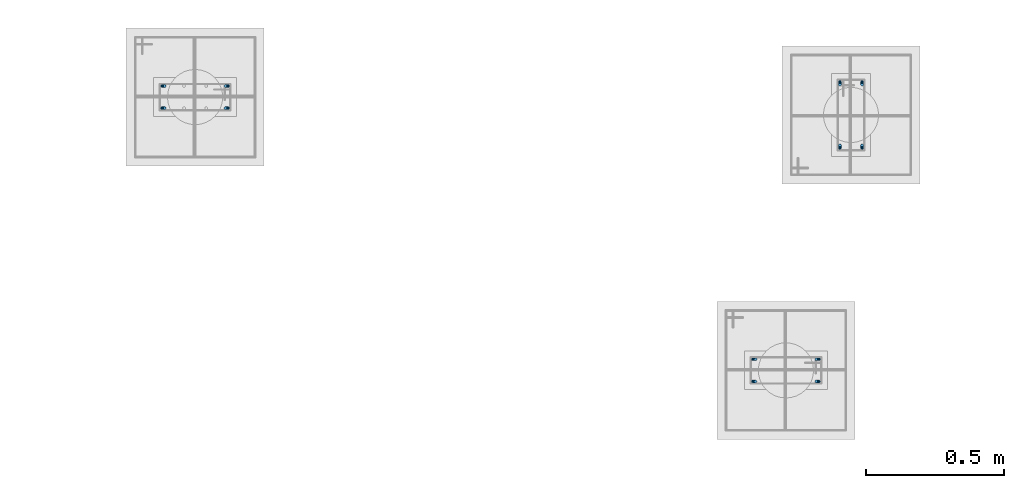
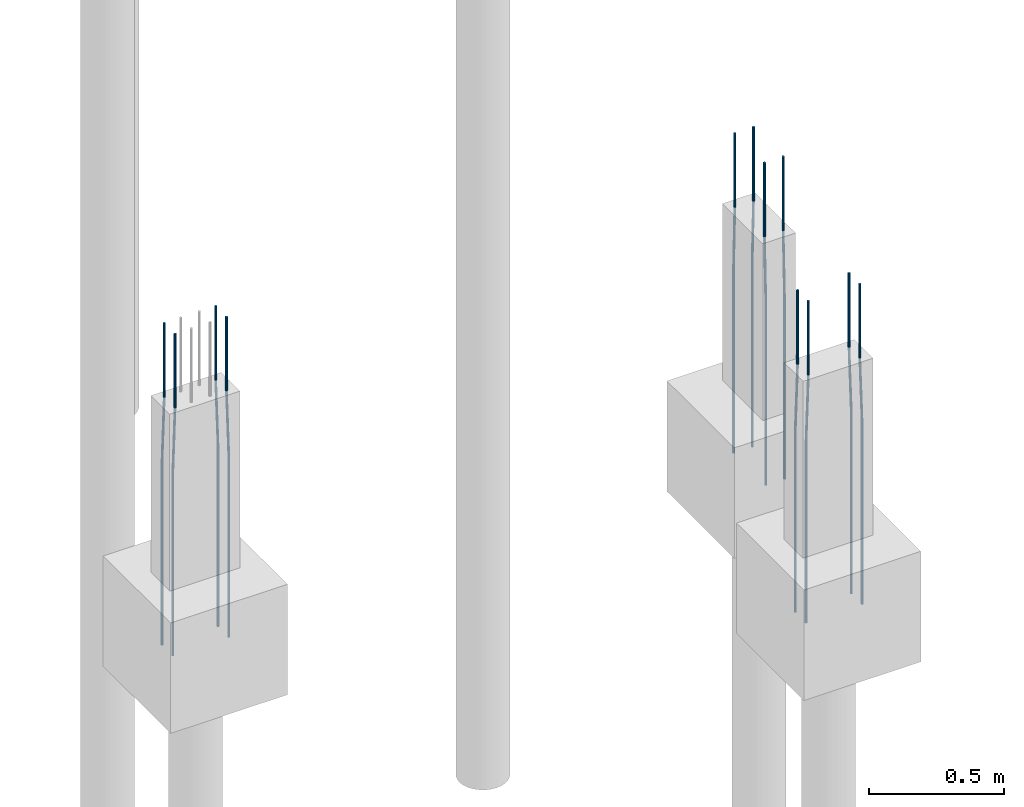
# One storey, part 6 of 119: 12 reinforcing bars.
"""IFC4 building model written with IfcOpenShell, lengths in centimetres."""

from ifc_helpers import new_model, entity, si_unit, derived_unit, frame, origin_with_axes, place, context, project, spatial, element, save


model = new_model("IFC4")

# Units and contexts
model_context = context("Model", 3, precision=1e-05, world=origin_with_axes(), identifier="Body")
ifc_project = project(units=[si_unit("LENGTHUNIT", "METRE", prefix="CENTI"), si_unit("VOLUMEUNIT", "CUBIC_METRE"), si_unit("AREAUNIT", "SQUARE_METRE"), si_unit("POWERUNIT", "WATT"), si_unit("LUMINOUSFLUXUNIT", "LUMEN"), si_unit("ELECTRICCURRENTUNIT", "AMPERE"), si_unit("PRESSUREUNIT", "PASCAL", prefix="KILO"), si_unit("MASSUNIT", "GRAM", prefix="KILO"), si_unit("PLANEANGLEUNIT", "RADIAN"), derived_unit("VOLUMETRICFLOWRATEUNIT", [(si_unit("LENGTHUNIT", "METRE"), 3), (si_unit("TIMEUNIT", "SECOND"), -1)])], contexts=[model_context])

# Site, building, storey
site_placement = place(None, frame((-4000.0, 0.0, 0.0), z_axis=(0.0, 0.0, 1.0), x_axis=(1.0, 0.0, 0.0)))
site = spatial("IfcSite", under=ifc_project, at=site_placement, Name="PADRÃO")
building_placement = place(site_placement, frame((0.0, 0.0, -14.0)))
building = spatial("IfcBuilding", under=site, at=building_placement, Name="CRECHE PRÉ-ESCOLA TIPO 2")
storey_placement = place(building_placement, origin_with_axes())
storey = spatial("IfcBuildingStorey", under=building, at=storey_placement, Name="FUNDAÇÃO", CompositionType="ELEMENT", Elevation=-14.0)

# Reinforcing bars
reinforcing_bar_1_placement = place(storey_placement, frame((277.5, 511.0, 33.3573001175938), z_axis=(0.0, 0.0, 1.0), x_axis=(1.0, 0.0, 0.0)))
element("IfcReinforcingBar", 1, at=reinforcing_bar_1_placement, inside=storey, Name="P135 - Longitudinal", BarLength=0.0, CrossSectionArea=7.853981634e-05, NominalDiameter=1.0, PredefinedType="MAIN", context=model_context, shape_type="AdvancedSweptSolid", body=[
    entity("IfcSweptDiskSolid", entity("IfcCompositeCurve", [entity("IfcCompositeCurveSegment", "CONTINUOUS", True, entity("IfcPolyline", [entity("IfcCartesianPoint", [0.5, 0.0, -145.357300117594]), entity("IfcCartesianPoint", [0.5, 0.0, -63.3573001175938])])), entity("IfcCompositeCurveSegment", "CONTINUOUS", True, entity("IfcPolyline", [entity("IfcCartesianPoint", [0.5, 0.0, -63.3573001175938]), entity("IfcCartesianPoint", [-0.5, 0.0, -33.3573001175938])])), entity("IfcCompositeCurveSegment", "CONTINUOUS", True, entity("IfcPolyline", [entity("IfcCartesianPoint", [-0.5, 0.0, -33.3573001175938]), entity("IfcCartesianPoint", [-0.5, 0.0, 0.0])]))], False), 0.5),
])
for number, where, z_axis, x_axis, name in (
    (2, (254.5, 511.0, 33.3573001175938), (0.0, 0.0, 1.0), (1.0, 0.0, 0.0), "P135 - Longitudinal"),
    (3, (254.5, 519.0, 33.3573001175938), (0.0, 0.0, 1.0), (1.0, 0.0, 0.0), "P135 - Longitudinal"),
):
    element("IfcReinforcingBar", number, at=place(storey_placement, frame(where, z_axis=z_axis, x_axis=x_axis)), inside=storey, Name=name, BarLength=0.0, CrossSectionArea=7.853981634e-05, NominalDiameter=1.0, PredefinedType="MAIN", context=model_context, shape_type="AdvancedSweptSolid", body=[
        entity("IfcSweptDiskSolid", entity("IfcCompositeCurve", [entity("IfcCompositeCurveSegment", "CONTINUOUS", True, entity("IfcPolyline", [entity("IfcCartesianPoint", [-0.5, 0.0, -145.357300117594]), entity("IfcCartesianPoint", [-0.5, 0.0, -63.3573001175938])])), entity("IfcCompositeCurveSegment", "CONTINUOUS", True, entity("IfcPolyline", [entity("IfcCartesianPoint", [-0.5, 0.0, -63.3573001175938]), entity("IfcCartesianPoint", [0.5, 0.0, -33.3573001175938])])), entity("IfcCompositeCurveSegment", "CONTINUOUS", True, entity("IfcPolyline", [entity("IfcCartesianPoint", [0.5, 0.0, -33.3573001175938]), entity("IfcCartesianPoint", [0.5, 0.0, 0.0])]))], False), 0.5),
    ])
reinforcing_bar_2_placement = place(storey_placement, frame((277.5, 519.0, 33.3573001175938), z_axis=(0.0, 0.0, 1.0), x_axis=(1.0, 0.0, 0.0)))
element("IfcReinforcingBar", 4, at=reinforcing_bar_2_placement, inside=storey, Name="P135 - Longitudinal", BarLength=0.0, CrossSectionArea=7.853981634e-05, NominalDiameter=1.0, PredefinedType="MAIN", context=model_context, shape_type="AdvancedSweptSolid", body=[
    entity("IfcSweptDiskSolid", entity("IfcCompositeCurve", [entity("IfcCompositeCurveSegment", "CONTINUOUS", True, entity("IfcPolyline", [entity("IfcCartesianPoint", [0.5, 0.0, -145.357300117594]), entity("IfcCartesianPoint", [0.5, 0.0, -63.3573001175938])])), entity("IfcCompositeCurveSegment", "CONTINUOUS", True, entity("IfcPolyline", [entity("IfcCartesianPoint", [0.5, 0.0, -63.3573001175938]), entity("IfcCartesianPoint", [-0.5, 0.0, -33.3573001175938])])), entity("IfcCompositeCurveSegment", "CONTINUOUS", True, entity("IfcPolyline", [entity("IfcCartesianPoint", [-0.5, 0.0, -33.3573001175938]), entity("IfcCartesianPoint", [-0.5, 0.0, 0.0])]))], False), 0.5),
])
for number, where, z_axis, x_axis, name in (
    (5, (499.57, 520.01, 33.3573001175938), (0.0, 0.0, 1.0), (1.0, 0.0, 0.0), "P136 - Longitudinal"),
    (6, (507.57, 520.01, 33.3573001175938), (0.0, 0.0, 1.0), (1.0, 0.0, 0.0), "P136 - Longitudinal"),
):
    element("IfcReinforcingBar", number, at=place(storey_placement, frame(where, z_axis=z_axis, x_axis=x_axis)), inside=storey, Name=name, BarLength=0.0, CrossSectionArea=7.853981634e-05, NominalDiameter=1.0, PredefinedType="MAIN", context=model_context, shape_type="AdvancedSweptSolid", body=[
        entity("IfcSweptDiskSolid", entity("IfcCompositeCurve", [entity("IfcCompositeCurveSegment", "CONTINUOUS", True, entity("IfcPolyline", [entity("IfcCartesianPoint", [0.0, 0.5, -145.357300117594]), entity("IfcCartesianPoint", [0.0, 0.5, -63.3573001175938])])), entity("IfcCompositeCurveSegment", "CONTINUOUS", True, entity("IfcPolyline", [entity("IfcCartesianPoint", [0.0, 0.5, -63.3573001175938]), entity("IfcCartesianPoint", [0.0, -0.5, -33.3573001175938])])), entity("IfcCompositeCurveSegment", "CONTINUOUS", True, entity("IfcPolyline", [entity("IfcCartesianPoint", [0.0, -0.5, -33.3573001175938]), entity("IfcCartesianPoint", [0.0, -0.5, 0.0])]))], False), 0.5),
    ])
for number, where, z_axis, x_axis, name in (
    (7, (507.57, 497.01, 33.3573001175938), (0.0, 0.0, 1.0), (1.0, 0.0, 0.0), "P136 - Longitudinal"),
    (8, (499.57, 497.01, 33.3573001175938), (0.0, 0.0, 1.0), (1.0, 0.0, 0.0), "P136 - Longitudinal"),
):
    element("IfcReinforcingBar", number, at=place(storey_placement, frame(where, z_axis=z_axis, x_axis=x_axis)), inside=storey, Name=name, BarLength=0.0, CrossSectionArea=7.853981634e-05, NominalDiameter=1.0, PredefinedType="MAIN", context=model_context, shape_type="AdvancedSweptSolid", body=[
        entity("IfcSweptDiskSolid", entity("IfcCompositeCurve", [entity("IfcCompositeCurveSegment", "CONTINUOUS", True, entity("IfcPolyline", [entity("IfcCartesianPoint", [0.0, -0.5, -145.357300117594]), entity("IfcCartesianPoint", [0.0, -0.5, -63.3573001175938])])), entity("IfcCompositeCurveSegment", "CONTINUOUS", True, entity("IfcPolyline", [entity("IfcCartesianPoint", [0.0, -0.5, -63.3573001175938]), entity("IfcCartesianPoint", [0.0, 0.5, -33.3573001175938])])), entity("IfcCompositeCurveSegment", "CONTINUOUS", True, entity("IfcPolyline", [entity("IfcCartesianPoint", [0.0, 0.5, -33.3573001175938]), entity("IfcCartesianPoint", [0.0, 0.5, 0.0])]))], False), 0.5),
    ])
reinforcing_bar_3_placement = place(storey_placement, frame((491.5, 412.0, 33.3573001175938), z_axis=(0.0, 0.0, 1.0), x_axis=(1.0, 0.0, 0.0)))
element("IfcReinforcingBar", 9, at=reinforcing_bar_3_placement, inside=storey, Name="P143 - Longitudinal", BarLength=0.0, CrossSectionArea=7.853981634e-05, NominalDiameter=1.0, PredefinedType="MAIN", context=model_context, shape_type="AdvancedSweptSolid", body=[
    entity("IfcSweptDiskSolid", entity("IfcCompositeCurve", [entity("IfcCompositeCurveSegment", "CONTINUOUS", True, entity("IfcPolyline", [entity("IfcCartesianPoint", [0.5, 0.0, -145.357300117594]), entity("IfcCartesianPoint", [0.5, 0.0, -63.3573001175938])])), entity("IfcCompositeCurveSegment", "CONTINUOUS", True, entity("IfcPolyline", [entity("IfcCartesianPoint", [0.5, 0.0, -63.3573001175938]), entity("IfcCartesianPoint", [-0.5, 0.0, -33.3573001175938])])), entity("IfcCompositeCurveSegment", "CONTINUOUS", True, entity("IfcPolyline", [entity("IfcCartesianPoint", [-0.5, 0.0, -33.3573001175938]), entity("IfcCartesianPoint", [-0.5, 0.0, 0.0])]))], False), 0.5),
])
for number, where, z_axis, x_axis, name in (
    (10, (468.5, 412.0, 33.3573001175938), (0.0, 0.0, 1.0), (1.0, 0.0, 0.0), "P143 - Longitudinal"),
    (11, (468.5, 420.0, 33.3573001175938), (0.0, 0.0, 1.0), (1.0, 0.0, 0.0), "P143 - Longitudinal"),
):
    element("IfcReinforcingBar", number, at=place(storey_placement, frame(where, z_axis=z_axis, x_axis=x_axis)), inside=storey, Name=name, BarLength=0.0, CrossSectionArea=7.853981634e-05, NominalDiameter=1.0, PredefinedType="MAIN", context=model_context, shape_type="AdvancedSweptSolid", body=[
        entity("IfcSweptDiskSolid", entity("IfcCompositeCurve", [entity("IfcCompositeCurveSegment", "CONTINUOUS", True, entity("IfcPolyline", [entity("IfcCartesianPoint", [-0.5, 0.0, -145.357300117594]), entity("IfcCartesianPoint", [-0.5, 0.0, -63.3573001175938])])), entity("IfcCompositeCurveSegment", "CONTINUOUS", True, entity("IfcPolyline", [entity("IfcCartesianPoint", [-0.5, 0.0, -63.3573001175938]), entity("IfcCartesianPoint", [0.5, 0.0, -33.3573001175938])])), entity("IfcCompositeCurveSegment", "CONTINUOUS", True, entity("IfcPolyline", [entity("IfcCartesianPoint", [0.5, 0.0, -33.3573001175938]), entity("IfcCartesianPoint", [0.5, 0.0, 0.0])]))], False), 0.5),
    ])
reinforcing_bar_4_placement = place(storey_placement, frame((491.5, 420.0, 33.3573001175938), z_axis=(0.0, 0.0, 1.0), x_axis=(1.0, 0.0, 0.0)))
element("IfcReinforcingBar", 12, at=reinforcing_bar_4_placement, inside=storey, Name="P143 - Longitudinal", BarLength=0.0, CrossSectionArea=7.853981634e-05, NominalDiameter=1.0, PredefinedType="MAIN", context=model_context, shape_type="AdvancedSweptSolid", body=[
    entity("IfcSweptDiskSolid", entity("IfcCompositeCurve", [entity("IfcCompositeCurveSegment", "CONTINUOUS", True, entity("IfcPolyline", [entity("IfcCartesianPoint", [0.5, 0.0, -145.357300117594]), entity("IfcCartesianPoint", [0.5, 0.0, -63.3573001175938])])), entity("IfcCompositeCurveSegment", "CONTINUOUS", True, entity("IfcPolyline", [entity("IfcCartesianPoint", [0.5, 0.0, -63.3573001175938]), entity("IfcCartesianPoint", [-0.5, 0.0, -33.3573001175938])])), entity("IfcCompositeCurveSegment", "CONTINUOUS", True, entity("IfcPolyline", [entity("IfcCartesianPoint", [-0.5, 0.0, -33.3573001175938]), entity("IfcCartesianPoint", [-0.5, 0.0, 0.0])]))], False), 0.5),
])

save(model, "model.ifc")
